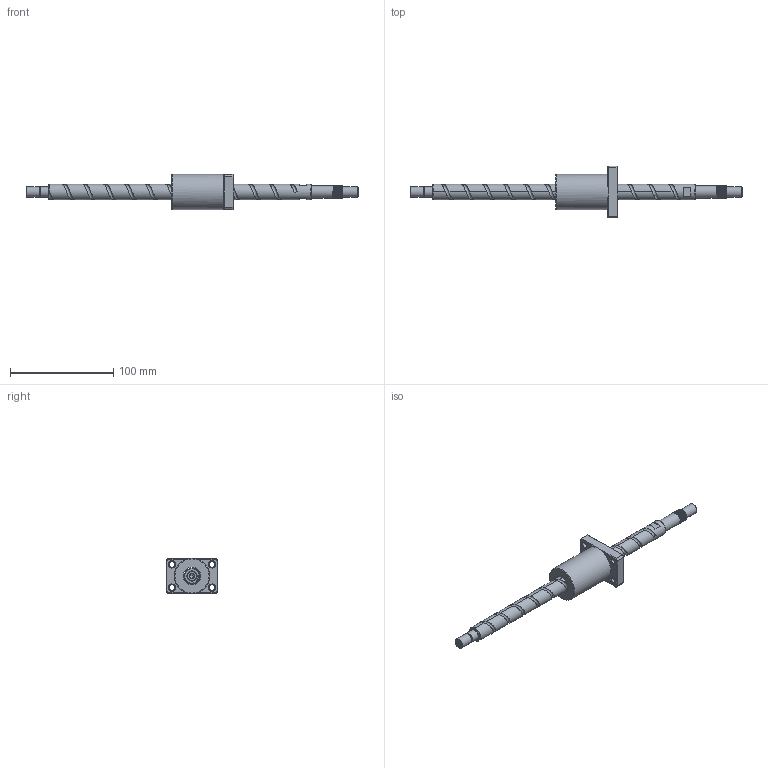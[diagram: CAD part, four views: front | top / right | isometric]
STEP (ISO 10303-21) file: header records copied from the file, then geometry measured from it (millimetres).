
FILE_DESCRIPTION (( 'STEP AP203' ), '1' );
FILE_NAME ('XSVR01520A1DGC5-321-P1.step', '2024-06-03T05:36:52', ( '' ), ( '' ), 'SwSTEP 2.0', 'SolidWorks 2022', '' );
FILE_SCHEMA (( 'CONFIG_CONTROL_DESIGN' ));
Length unit declared in the file: millimetre
Products named in the file (1): XSVR01520A1DGC5-321-P1
Bounding box: 321 x 50 x 34 mm (x, y, z)
Volume: 95196.1 mm3; surface area: 29524.2 mm2
Topology: 2 solids, 2 shells, 142 faces, 380 edges, 248 vertices
Faces by surface type: cylinder 65, plane 43, cone 15, bspline 10, torus 9
Full cylindrical faces by diameter (mm): 4 x1, 4.2 x15, 5 x6, 5.5 x4, 9.5 x4, 9.6 x1, 10 x3, 12 x9, 15 x12, 17 x1, 34 x1
Entity records: 12750 total; most frequent: CARTESIAN_POINT 10622, ORIENTED_EDGE 410, DIRECTION 391, EDGE_CURVE 205, AXIS2_PLACEMENT_3D 168, EDGE_LOOP 153, VERTEX_POINT 150, FACE_OUTER_BOUND 120
